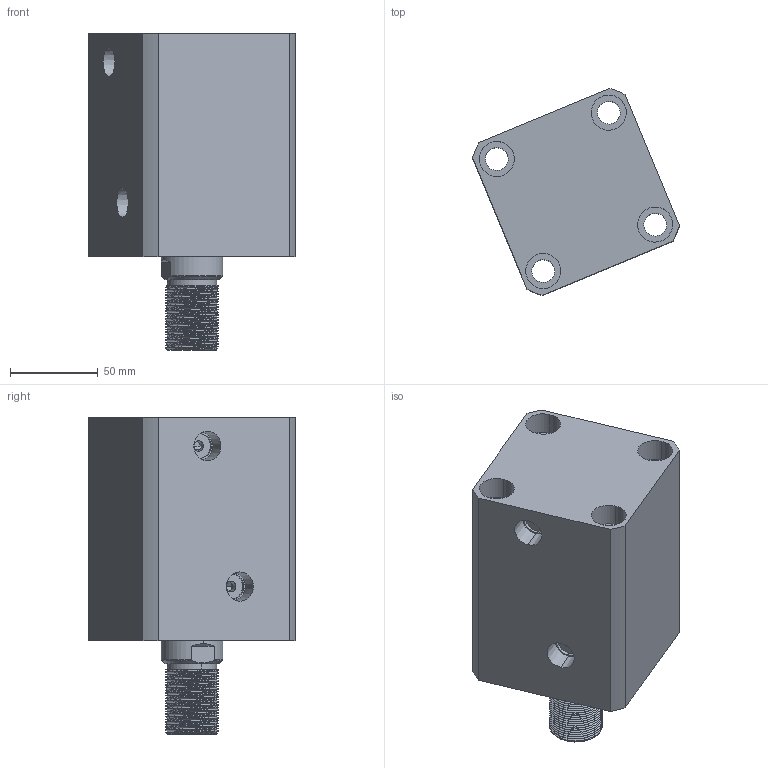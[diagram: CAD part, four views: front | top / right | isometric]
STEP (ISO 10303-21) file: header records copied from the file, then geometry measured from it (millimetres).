
FILE_DESCRIPTION (( 'STEP AP214' ), '1' );
FILE_NAME ('chtb-sd63x60w_asm.STEP', '2018-05-19T02:00:25', ( 'Windows' ), ( 'Microsoft' ), 'SwSTEP 2.0', 'SolidWorks 2015', '' );
FILE_SCHEMA (( 'AUTOMOTIVE_DESIGN' ));
Length unit declared in the file: millimetre
Products named in the file (4): chtb-sd63x60w_asm; CHTB63X60WHSG; CHTB63X60NBT; CHTB-63QG
Assembly tree (3 placements, depth 2):
  chtb-sd63x60w_asm
    CHTB-63QG
    CHTB63X60NBT
    CHTB63X60WHSG
Bounding box: 117.81 x 117.81 x 180 mm (x, y, z)
Volume: 930562.1 mm3; surface area: 157832.4 mm2
Topology: 3 solids, 3 shells, 219 faces, 625 edges, 427 vertices
Faces by surface type: cylinder 150, plane 36, bspline 14, cone 13, torus 6
Entity records: 22208 total; most frequent: CARTESIAN_POINT 16953, ORIENTED_EDGE 1242, DIRECTION 881, EDGE_CURVE 621, VERTEX_POINT 427, AXIS2_PLACEMENT_3D 346, EDGE_LOOP 252, ADVANCED_FACE 219
